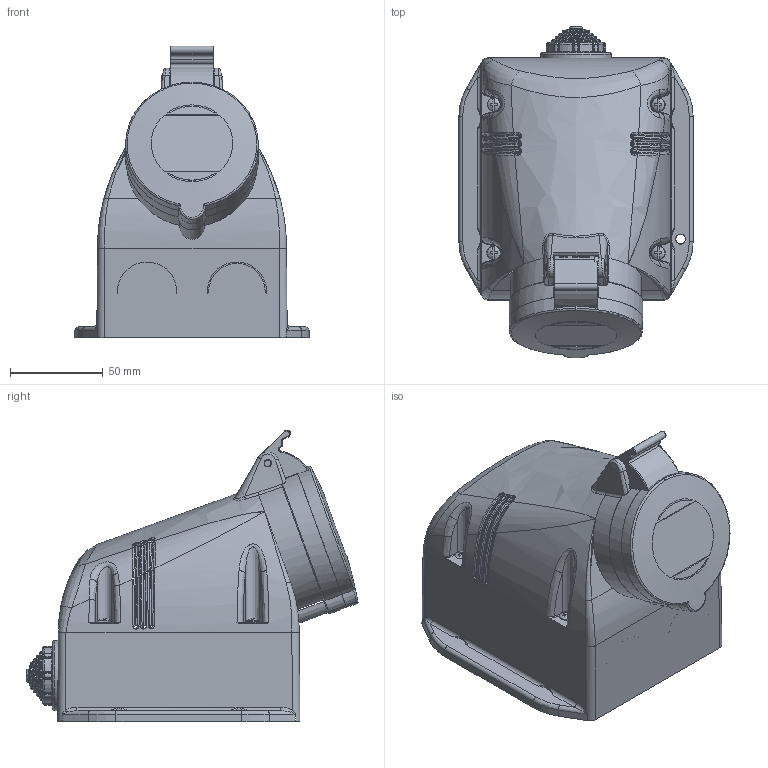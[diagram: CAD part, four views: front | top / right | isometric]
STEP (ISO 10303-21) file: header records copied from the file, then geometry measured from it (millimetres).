
FILE_DESCRIPTION(/* description */ (''),/* implementation_level */ '2;1');
FILE_NAME(/* name */ '4001792.stp',/* time_stamp */ '2017-04-11T22:17:48+02:00',/* author */ (''),/* organization */ (''),/* preprocessor_version */ 'ST-DEVELOPER v16',/* originating_system */ 'SIEMENS PLM Software NX 11.0',/* authorisation */ '');
FILE_SCHEMA (('AUTOMOTIVE_DESIGN { 1 0 10303 214 3 1 1 1 }'));
Products named in the file (1): 4001792_LINKEDEXT_jt
Bounding box: 126.5 x 179.25 x 157.6 mm (x, y, z)
Surface area: 120801.1 mm2 (no closed solid volume)
Topology: 0 solids, 27 shells, 715 faces, 2362 edges, 1536 vertices
Faces by surface type: bspline 303, cylinder 183, plane 125, torus 47, cone 30, sphere 27
Full cylindrical faces by diameter (mm): 4 x1, 30.5 x1, 38 x1
Entity records: 50917 total; most frequent: CARTESIAN_POINT 32053, ORIENTED_EDGE 3533, DIRECTION 2899, EDGE_CURVE 2279, VERTEX_POINT 1519, AXIS2_PLACEMENT_3D 1153, B_SPLINE_CURVE_WITH_KNOTS 945, EDGE_LOOP 762
